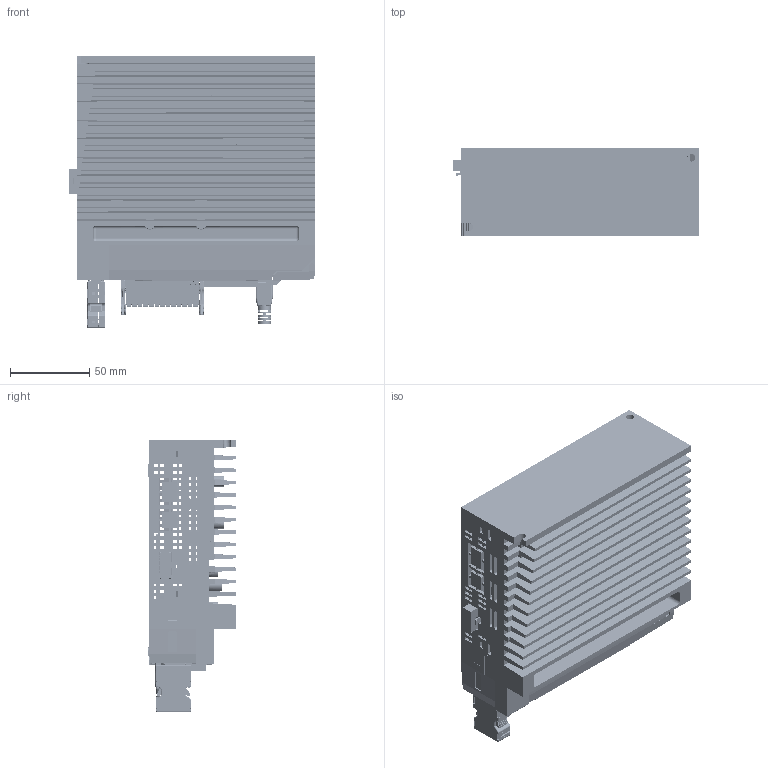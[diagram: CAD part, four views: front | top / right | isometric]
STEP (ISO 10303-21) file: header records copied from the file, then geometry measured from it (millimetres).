
FILE_DESCRIPTION((''),'2;1');
FILE_NAME('M56S-23A0CX','2023-08-15T16:34:13',('ms27526'),(''),'CREO PARAMETRIC BY PTC INC, 2018100','CREO PARAMETRIC BY PTC INC, 2018100','');
FILE_SCHEMA(('CONFIG_CONTROL_DESIGN'));
Products named in the file (1): M56S-23A0CX
Bounding box: 155.51 x 55.2 x 171.63 mm (x, y, z)
Volume: 265882.7 mm3; surface area: 309137 mm2
Topology: 27 solids, 79 shells, 16083 faces, 43703 edges, 27406 vertices
Faces by surface type: plane 8760, cylinder 4720, cone 1188, bspline 741, torus 443, sphere 185, extrusion 46
Entity records: 562105 total; most frequent: CARTESIAN_POINT 162250, ORIENTED_EDGE 85741, DIRECTION 79112, EDGE_CURVE 43225, VECTOR 28936, LINE 28890, VERTEX_POINT 27408, AXIS2_PLACEMENT_3D 25088
